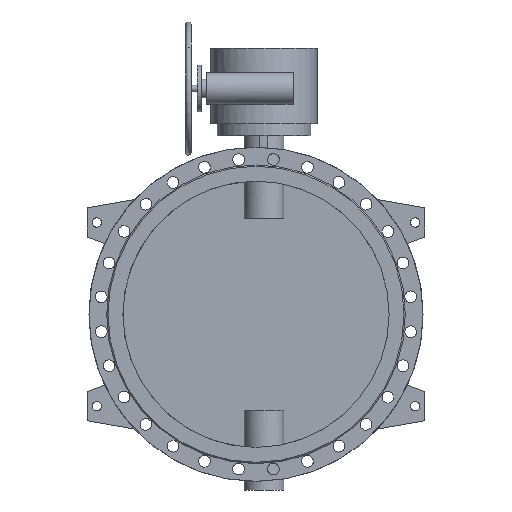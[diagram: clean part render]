
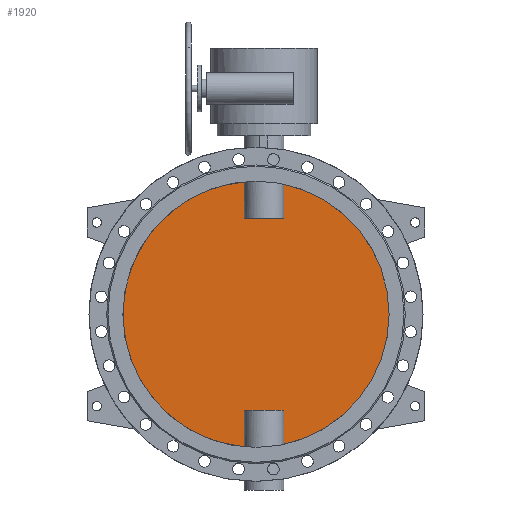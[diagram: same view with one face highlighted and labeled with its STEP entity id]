
A CAD part, front view. The second image highlights one B-rep face of the part: STEP entity #1920.
In plain terms, the highlighted planar face has unit normal (0, -1, 0).
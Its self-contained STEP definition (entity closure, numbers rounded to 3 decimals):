
#1920=ADVANCED_FACE('',(#4029),#4031,.F.);
#4029=FACE_BOUND('',#4030,.T.);
#4030=EDGE_LOOP('',(#5052,#5053,#5054,#5055,#5056,#5057,#5058,#5059));
#4031=PLANE('',#4032);
#4032=AXIS2_PLACEMENT_3D('',#4033,#4034,#4035);
#4033=CARTESIAN_POINT('',(0.,-5.,0.));
#4034=DIRECTION('',(0.,1.,0.));
#4035=DIRECTION('',(1.,0.,0.));
#5052=ORIENTED_EDGE('',*,*,#5543,.T.);
#5053=ORIENTED_EDGE('',*,*,#5549,.T.);
#5054=ORIENTED_EDGE('',*,*,#5550,.T.);
#5055=ORIENTED_EDGE('',*,*,#5551,.T.);
#5056=ORIENTED_EDGE('',*,*,#5545,.T.);
#5057=ORIENTED_EDGE('',*,*,#5552,.T.);
#5058=ORIENTED_EDGE('',*,*,#5553,.T.);
#5059=ORIENTED_EDGE('',*,*,#5554,.T.);
#5543=EDGE_CURVE('',#6365,#6366,#6367,.F.);
#5545=EDGE_CURVE('',#6370,#6368,#6371,.F.);
#5549=EDGE_CURVE('',#6366,#6377,#6378,.T.);
#5550=EDGE_CURVE('',#6377,#6379,#6380,.F.);
#5551=EDGE_CURVE('',#6379,#6370,#6381,.F.);
#5552=EDGE_CURVE('',#6368,#6382,#6383,.F.);
#5553=EDGE_CURVE('',#6382,#6384,#6385,.F.);
#5554=EDGE_CURVE('',#6384,#6365,#6386,.T.);
#6365=VERTEX_POINT('',#9205);
#6366=VERTEX_POINT('',#9206);
#6367=CIRCLE('',#9207,500.);
#6368=VERTEX_POINT('',#9211);
#6370=VERTEX_POINT('',#9309);
#6371=CIRCLE('',#9310,500.);
#6377=VERTEX_POINT('',#9420);
#6378=LINE('',#9421,#9422);
#6379=VERTEX_POINT('',#9424);
#6380=LINE('',#9425,#9426);
#6381=LINE('',#9428,#9429);
#6382=VERTEX_POINT('',#9431);
#6383=LINE('',#9432,#9433);
#6384=VERTEX_POINT('',#9435);
#6385=LINE('',#9436,#9437);
#6386=LINE('',#9439,#9440);
#9205=CARTESIAN_POINT('',(104.833,-5.,-488.887));
#9206=CARTESIAN_POINT('',(104.833,-5.,488.887));
#9207=AXIS2_PLACEMENT_3D('',#9208,#9209,#9210);
#9208=CARTESIAN_POINT('',(0.,-5.,0.));
#9209=DIRECTION('',(0.,1.,0.));
#9210=DIRECTION('',(0.21,0.,0.978));
#9211=CARTESIAN_POINT('',(-44.833,-5.,-497.986));
#9309=CARTESIAN_POINT('',(-44.833,-5.,497.986));
#9310=AXIS2_PLACEMENT_3D('',#9311,#9312,#9313);
#9311=CARTESIAN_POINT('',(0.,-5.,0.));
#9312=DIRECTION('',(0.,1.,0.));
#9313=DIRECTION('',(-0.09,0.,-0.996));
#9420=CARTESIAN_POINT('',(104.833,-5.,360.));
#9421=CARTESIAN_POINT('',(104.833,-5.,488.887));
#9422=VECTOR('',#9423,1.);
#9423=DIRECTION('',(0.,0.,-1.));
#9424=CARTESIAN_POINT('',(-44.833,-5.,360.));
#9425=CARTESIAN_POINT('',(-44.833,-5.,360.));
#9426=VECTOR('',#9427,1.);
#9427=DIRECTION('',(1.,0.,0.));
#9428=CARTESIAN_POINT('',(-44.833,-5.,497.986));
#9429=VECTOR('',#9430,1.);
#9430=DIRECTION('',(0.,0.,-1.));
#9431=CARTESIAN_POINT('',(-44.833,-5.,-360.));
#9432=CARTESIAN_POINT('',(-44.833,-5.,-360.));
#9433=VECTOR('',#9434,1.);
#9434=DIRECTION('',(0.,0.,-1.));
#9435=CARTESIAN_POINT('',(104.833,-5.,-360.));
#9436=CARTESIAN_POINT('',(104.833,-5.,-360.));
#9437=VECTOR('',#9438,1.);
#9438=DIRECTION('',(-1.,0.,0.));
#9439=CARTESIAN_POINT('',(104.833,-5.,-360.));
#9440=VECTOR('',#9441,1.);
#9441=DIRECTION('',(0.,0.,-1.));
